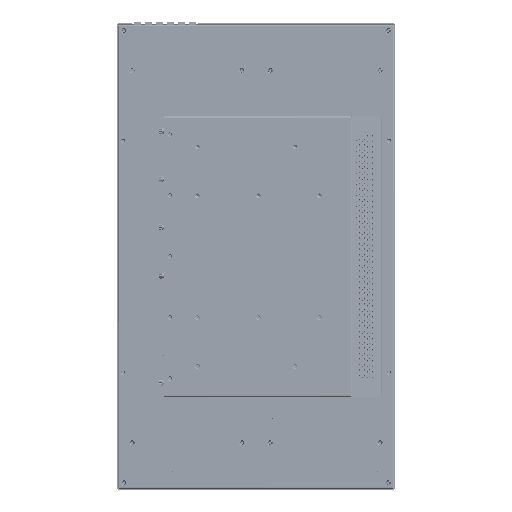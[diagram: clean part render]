
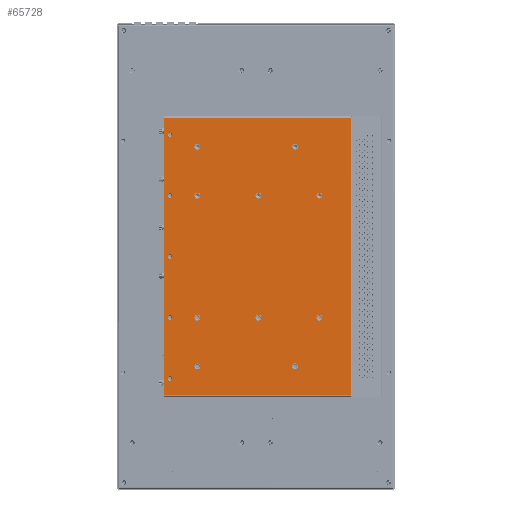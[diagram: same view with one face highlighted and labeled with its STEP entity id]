
A CAD part, top view. The second image highlights one B-rep face of the part: STEP entity #65728.
In plain terms, the highlighted planar face has unit normal (0, 0, 1) as drawn and (0, 0, -1) by its records, which use the part's own axes.
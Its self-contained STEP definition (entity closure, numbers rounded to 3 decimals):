
#3746=CIRCLE('',#72348,4.55);
#3747=CIRCLE('',#72349,4.55);
#3748=CIRCLE('',#72350,4.5);
#3749=CIRCLE('',#72351,4.5);
#3750=CIRCLE('',#72352,4.5);
#3751=CIRCLE('',#72353,4.55);
#3752=CIRCLE('',#72354,4.55);
#3753=CIRCLE('',#72355,4.55);
#3754=CIRCLE('',#72356,4.5);
#3755=CIRCLE('',#72357,4.5);
#3756=CIRCLE('',#72358,3.55);
#3757=CIRCLE('',#72359,3.65);
#3758=CIRCLE('',#72360,3.65);
#3759=CIRCLE('',#72361,3.65);
#3760=CIRCLE('',#72362,3.65);
#13251=FACE_BOUND('',#25354,.T.);
#13252=FACE_BOUND('',#25355,.T.);
#13253=FACE_BOUND('',#25356,.T.);
#13254=FACE_BOUND('',#25357,.T.);
#13255=FACE_BOUND('',#25358,.T.);
#13256=FACE_BOUND('',#25359,.T.);
#13257=FACE_BOUND('',#25360,.T.);
#13258=FACE_BOUND('',#25361,.T.);
#13259=FACE_BOUND('',#25362,.T.);
#13260=FACE_BOUND('',#25363,.T.);
#13261=FACE_BOUND('',#25364,.T.);
#13262=FACE_BOUND('',#25365,.T.);
#13263=FACE_BOUND('',#25366,.T.);
#13264=FACE_BOUND('',#25367,.T.);
#13265=FACE_BOUND('',#25368,.T.);
#17291=FACE_OUTER_BOUND('',#25353,.T.);
#25353=EDGE_LOOP('',(#54761,#54762,#54763,#54764));
#25354=EDGE_LOOP('',(#54765));
#25355=EDGE_LOOP('',(#54766));
#25356=EDGE_LOOP('',(#54767));
#25357=EDGE_LOOP('',(#54768));
#25358=EDGE_LOOP('',(#54769));
#25359=EDGE_LOOP('',(#54770));
#25360=EDGE_LOOP('',(#54771));
#25361=EDGE_LOOP('',(#54772));
#25362=EDGE_LOOP('',(#54773));
#25363=EDGE_LOOP('',(#54774));
#25364=EDGE_LOOP('',(#54775));
#25365=EDGE_LOOP('',(#54776));
#25366=EDGE_LOOP('',(#54777));
#25367=EDGE_LOOP('',(#54778));
#25368=EDGE_LOOP('',(#54779));
#30036=LINE('',#105692,#32093);
#30037=LINE('',#105694,#32094);
#30038=LINE('',#105696,#32095);
#30039=LINE('',#105697,#32096);
#32093=VECTOR('',#86428,454.5);
#32094=VECTOR('',#86429,305.964);
#32095=VECTOR('',#86430,454.5);
#32096=VECTOR('',#86431,305.964);
#36945=VERTEX_POINT('',#105690);
#36946=VERTEX_POINT('',#105691);
#36947=VERTEX_POINT('',#105693);
#36948=VERTEX_POINT('',#105695);
#36949=VERTEX_POINT('',#105698);
#36950=VERTEX_POINT('',#105700);
#36951=VERTEX_POINT('',#105702);
#36952=VERTEX_POINT('',#105704);
#36953=VERTEX_POINT('',#105706);
#36954=VERTEX_POINT('',#105708);
#36955=VERTEX_POINT('',#105710);
#36956=VERTEX_POINT('',#105712);
#36957=VERTEX_POINT('',#105714);
#36958=VERTEX_POINT('',#105716);
#36959=VERTEX_POINT('',#105718);
#36960=VERTEX_POINT('',#105720);
#36961=VERTEX_POINT('',#105722);
#36962=VERTEX_POINT('',#105724);
#36963=VERTEX_POINT('',#105726);
#43595=EDGE_CURVE('',#36945,#36946,#30036,.T.);
#43596=EDGE_CURVE('',#36945,#36947,#30037,.T.);
#43597=EDGE_CURVE('',#36947,#36948,#30038,.T.);
#43598=EDGE_CURVE('',#36948,#36946,#30039,.T.);
#43599=EDGE_CURVE('',#36949,#36949,#3746,.T.);
#43600=EDGE_CURVE('',#36950,#36950,#3747,.T.);
#43601=EDGE_CURVE('',#36951,#36951,#3748,.T.);
#43602=EDGE_CURVE('',#36952,#36952,#3749,.T.);
#43603=EDGE_CURVE('',#36953,#36953,#3750,.T.);
#43604=EDGE_CURVE('',#36954,#36954,#3751,.T.);
#43605=EDGE_CURVE('',#36955,#36955,#3752,.T.);
#43606=EDGE_CURVE('',#36956,#36956,#3753,.T.);
#43607=EDGE_CURVE('',#36957,#36957,#3754,.T.);
#43608=EDGE_CURVE('',#36958,#36958,#3755,.T.);
#43609=EDGE_CURVE('',#36959,#36959,#3756,.T.);
#43610=EDGE_CURVE('',#36960,#36960,#3757,.T.);
#43611=EDGE_CURVE('',#36961,#36961,#3758,.T.);
#43612=EDGE_CURVE('',#36962,#36962,#3759,.T.);
#43613=EDGE_CURVE('',#36963,#36963,#3760,.T.);
#54761=ORIENTED_EDGE('',*,*,#43595,.F.);
#54762=ORIENTED_EDGE('',*,*,#43596,.T.);
#54763=ORIENTED_EDGE('',*,*,#43597,.T.);
#54764=ORIENTED_EDGE('',*,*,#43598,.T.);
#54765=ORIENTED_EDGE('',*,*,#43599,.F.);
#54766=ORIENTED_EDGE('',*,*,#43600,.F.);
#54767=ORIENTED_EDGE('',*,*,#43601,.F.);
#54768=ORIENTED_EDGE('',*,*,#43602,.F.);
#54769=ORIENTED_EDGE('',*,*,#43603,.F.);
#54770=ORIENTED_EDGE('',*,*,#43604,.F.);
#54771=ORIENTED_EDGE('',*,*,#43605,.F.);
#54772=ORIENTED_EDGE('',*,*,#43606,.F.);
#54773=ORIENTED_EDGE('',*,*,#43607,.F.);
#54774=ORIENTED_EDGE('',*,*,#43608,.F.);
#54775=ORIENTED_EDGE('',*,*,#43609,.F.);
#54776=ORIENTED_EDGE('',*,*,#43610,.F.);
#54777=ORIENTED_EDGE('',*,*,#43611,.F.);
#54778=ORIENTED_EDGE('',*,*,#43612,.F.);
#54779=ORIENTED_EDGE('',*,*,#43613,.F.);
#63414=PLANE('',#72347);
#65728=ADVANCED_FACE('',(#17291,#13251,#13252,#13253,#13254,#13255,#13256,
#13257,#13258,#13259,#13260,#13261,#13262,#13263,#13264,#13265),#63414,
 .F.);
#72347=AXIS2_PLACEMENT_3D('',#105689,#86426,#86427);
#72348=AXIS2_PLACEMENT_3D('',#105699,#86432,#86433);
#72349=AXIS2_PLACEMENT_3D('',#105701,#86434,#86435);
#72350=AXIS2_PLACEMENT_3D('',#105703,#86436,#86437);
#72351=AXIS2_PLACEMENT_3D('',#105705,#86438,#86439);
#72352=AXIS2_PLACEMENT_3D('',#105707,#86440,#86441);
#72353=AXIS2_PLACEMENT_3D('',#105709,#86442,#86443);
#72354=AXIS2_PLACEMENT_3D('',#105711,#86444,#86445);
#72355=AXIS2_PLACEMENT_3D('',#105713,#86446,#86447);
#72356=AXIS2_PLACEMENT_3D('',#105715,#86448,#86449);
#72357=AXIS2_PLACEMENT_3D('',#105717,#86450,#86451);
#72358=AXIS2_PLACEMENT_3D('',#105719,#86452,#86453);
#72359=AXIS2_PLACEMENT_3D('',#105721,#86454,#86455);
#72360=AXIS2_PLACEMENT_3D('',#105723,#86456,#86457);
#72361=AXIS2_PLACEMENT_3D('',#105725,#86458,#86459);
#72362=AXIS2_PLACEMENT_3D('',#105727,#86460,#86461);
#86426=DIRECTION('center_axis',(0.,0.,1.));
#86427=DIRECTION('ref_axis',(1.,0.,0.));
#86428=DIRECTION('',(0.,-1.,0.));
#86429=DIRECTION('',(1.,0.,0.));
#86430=DIRECTION('',(0.,-1.,0.));
#86431=DIRECTION('',(-1.,0.,0.));
#86432=DIRECTION('center_axis',(0.,0.,-1.));
#86433=DIRECTION('ref_axis',(-1.,0.,0.));
#86434=DIRECTION('center_axis',(0.,0.,-1.));
#86435=DIRECTION('ref_axis',(-1.,0.,0.));
#86436=DIRECTION('center_axis',(0.,0.,-1.));
#86437=DIRECTION('ref_axis',(-1.,0.,0.));
#86438=DIRECTION('center_axis',(0.,0.,-1.));
#86439=DIRECTION('ref_axis',(-1.,0.,0.));
#86440=DIRECTION('center_axis',(0.,0.,-1.));
#86441=DIRECTION('ref_axis',(-1.,0.,0.));
#86442=DIRECTION('center_axis',(0.,0.,-1.));
#86443=DIRECTION('ref_axis',(-1.,0.,0.));
#86444=DIRECTION('center_axis',(0.,0.,-1.));
#86445=DIRECTION('ref_axis',(-1.,0.,0.));
#86446=DIRECTION('center_axis',(0.,0.,-1.));
#86447=DIRECTION('ref_axis',(-1.,0.,0.));
#86448=DIRECTION('center_axis',(0.,0.,-1.));
#86449=DIRECTION('ref_axis',(-1.,0.,0.));
#86450=DIRECTION('center_axis',(0.,0.,-1.));
#86451=DIRECTION('ref_axis',(-1.,0.,0.));
#86452=DIRECTION('center_axis',(0.,0.,-1.));
#86453=DIRECTION('ref_axis',(-1.,0.,0.));
#86454=DIRECTION('center_axis',(0.,0.,-1.));
#86455=DIRECTION('ref_axis',(-1.,0.,0.));
#86456=DIRECTION('center_axis',(0.,0.,-1.));
#86457=DIRECTION('ref_axis',(-1.,0.,0.));
#86458=DIRECTION('center_axis',(0.,0.,-1.));
#86459=DIRECTION('ref_axis',(-1.,0.,0.));
#86460=DIRECTION('center_axis',(0.,0.,-1.));
#86461=DIRECTION('ref_axis',(-1.,0.,0.));
#105689=CARTESIAN_POINT('Origin',(0.,0.,-40.75));
#105690=CARTESIAN_POINT('',(-177.,227.25,-40.75));
#105691=CARTESIAN_POINT('',(-177.,-227.25,-40.75));
#105692=CARTESIAN_POINT('',(-177.,227.25,-40.75));
#105693=CARTESIAN_POINT('',(128.964,227.25,-40.75));
#105694=CARTESIAN_POINT('',(-177.,227.25,-40.75));
#105695=CARTESIAN_POINT('',(128.964,-227.25,-40.75));
#105696=CARTESIAN_POINT('',(128.964,227.25,-40.75));
#105697=CARTESIAN_POINT('',(128.964,-227.25,-40.75));
#105698=CARTESIAN_POINT('',(-126.55,-180.,-40.75));
#105699=CARTESIAN_POINT('Origin',(-122.,-180.,-40.75));
#105700=CARTESIAN_POINT('',(-126.55,-100.,-40.75));
#105701=CARTESIAN_POINT('Origin',(-122.,-100.,-40.75));
#105702=CARTESIAN_POINT('',(-126.5,100.,-40.75));
#105703=CARTESIAN_POINT('Origin',(-122.,100.,-40.75));
#105704=CARTESIAN_POINT('',(-126.5,180.,-40.75));
#105705=CARTESIAN_POINT('Origin',(-122.,180.,-40.75));
#105706=CARTESIAN_POINT('',(-26.5,100.,-40.75));
#105707=CARTESIAN_POINT('Origin',(-22.,100.,-40.75));
#105708=CARTESIAN_POINT('',(-26.55,-100.,-40.75));
#105709=CARTESIAN_POINT('Origin',(-22.,-100.,-40.75));
#105710=CARTESIAN_POINT('',(33.45,-180.,-40.75));
#105711=CARTESIAN_POINT('Origin',(38.,-180.,-40.75));
#105712=CARTESIAN_POINT('',(73.45,-100.,-40.75));
#105713=CARTESIAN_POINT('Origin',(78.,-100.,-40.75));
#105714=CARTESIAN_POINT('',(73.5,100.,-40.75));
#105715=CARTESIAN_POINT('Origin',(78.,100.,-40.75));
#105716=CARTESIAN_POINT('',(33.5,180.,-40.75));
#105717=CARTESIAN_POINT('Origin',(38.,180.,-40.75));
#105718=CARTESIAN_POINT('',(-170.55,-200.,-40.75));
#105719=CARTESIAN_POINT('Origin',(-167.,-200.,-40.75));
#105720=CARTESIAN_POINT('',(-170.65,-100.,-40.75));
#105721=CARTESIAN_POINT('Origin',(-167.,-100.,-40.75));
#105722=CARTESIAN_POINT('',(-170.65,0.,-40.75));
#105723=CARTESIAN_POINT('Origin',(-167.,0.,-40.75));
#105724=CARTESIAN_POINT('',(-170.65,100.,-40.75));
#105725=CARTESIAN_POINT('Origin',(-167.,100.,-40.75));
#105726=CARTESIAN_POINT('',(-170.65,200.,-40.75));
#105727=CARTESIAN_POINT('Origin',(-167.,200.,-40.75));
